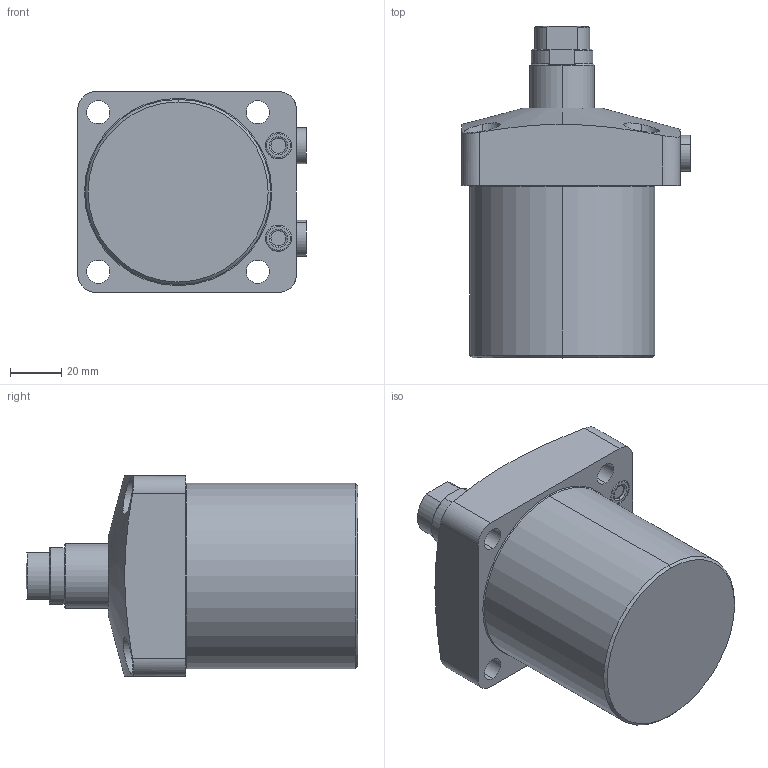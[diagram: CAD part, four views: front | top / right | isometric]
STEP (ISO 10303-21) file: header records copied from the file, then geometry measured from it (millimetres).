
FILE_DESCRIPTION(/* description */ (''),/* implementation_level */ '2;1');
FILE_NAME(/* name */ 'FSS25.stp',/* time_stamp */ '2022-11-16T14:03:55+08:00',/* author */ (''),/* organization */ (''),/* preprocessor_version */ 'ST-DEVELOPER v16.7',/* originating_system */ 'SIEMENS PLM Software NX 12.0',/* authorisation */ '');
FILE_SCHEMA (('AP203_CONFIGURATION_CONTROLLED_3D_DESIGN_OF_MECHANICAL_PARTS_AND_ASSEMBLIES_MIM_LF { 1 0 10303 403 2 1 2}'));
Length unit declared in the file: millimetre
Products named in the file (5): FSS25-04; FSS25-01; FSS25-02; FSS25-03; CST25_step
Assembly tree (5 placements, depth 2):
  CST25_step
    FSS25-03
    FSS25-02
    FSS25-01
    FSS25-04  x2
Bounding box: 88.8 x 129 x 78 mm (x, y, z)
Volume: 437527.3 mm3; surface area: 47650 mm2
Topology: 5 solids, 7 shells, 198 faces, 432 edges, 267 vertices
Faces by surface type: cylinder 82, plane 56, torus 30, cone 28, sphere 2
Entity records: 5637 total; most frequent: CARTESIAN_POINT 979, DIRECTION 948, ORIENTED_EDGE 780, AXIS2_PLACEMENT_3D 408, EDGE_CURVE 390, VERTEX_POINT 241, CIRCLE 224, EDGE_LOOP 209
